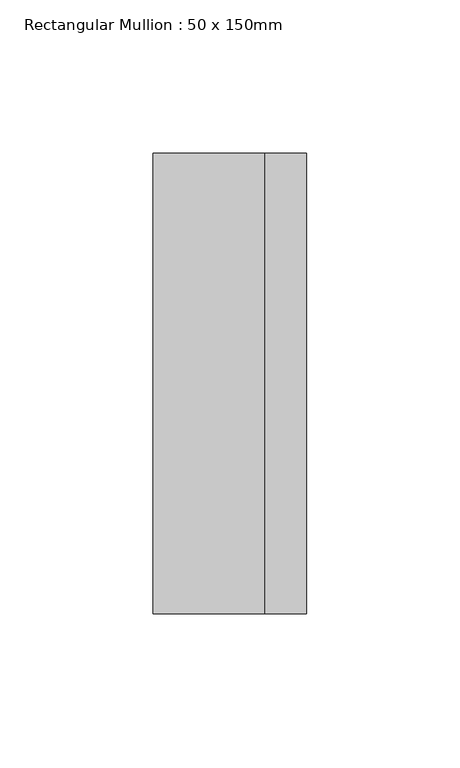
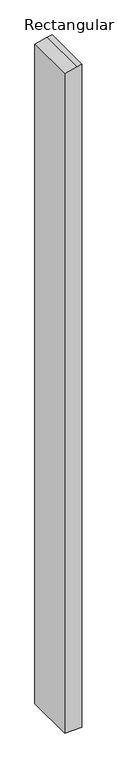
"""IFC4 building model written with IfcOpenShell, lengths in millimetres: member geometry, Rectangular Mullion : 50 x 150mm."""

from ifc_helpers import new_model, si_unit, frame, origin, place, context, project, spatial, polyline, outline, extrude, source, transform, mapped, element, save


def rectangular_mullion_50_x_150mm_593947fb(model_context):
    return source(origin(), model_context, "Body", "SweptSolid", [
        extrude(outline(polyline([(-45.4880193, 25.0), (-48.6748048, 11.4351816), (-57.2345292, -25.0), (-2089.5354298, -25.0), (-2089.5354298, 25.0), (-45.4880193, 25.0)])), frame((0.0, -75.0, 0.0), z_axis=(0.0, 1.0, 0.0), x_axis=(0.0, 0.0, 1.0)), (0.0, 0.0, 1.0), 150.0),
    ])


if __name__ == "__main__":
    model = new_model("IFC4")
    model_context = context("Model", 3, world=origin())
    ifc_project = project(units=[si_unit("LENGTHUNIT", "METRE", prefix="MILLI")], contexts=[model_context])
    site = spatial("IfcSite", under=ifc_project)
    building = spatial("IfcBuilding", under=site)
    placement = place(None, origin())
    rectangular_mullion_50_x_150mm_shape = rectangular_mullion_50_x_150mm_593947fb(model_context)
    element("IfcMember", 1, ObjectType="Rectangular Mullion : 50 x 150mm", at=placement, inside=building, context=model_context, shape_type="MappedRepresentation", body=[
        mapped(rectangular_mullion_50_x_150mm_shape, transform((0.0, 0.0, 0.0), x_axis=(1.0, 0.0, 0.0), y_axis=(0.0, 1.0, 0.0), z_axis=(0.0, 0.0, 1.0))),
    ])
    save(model, "model.ifc")
